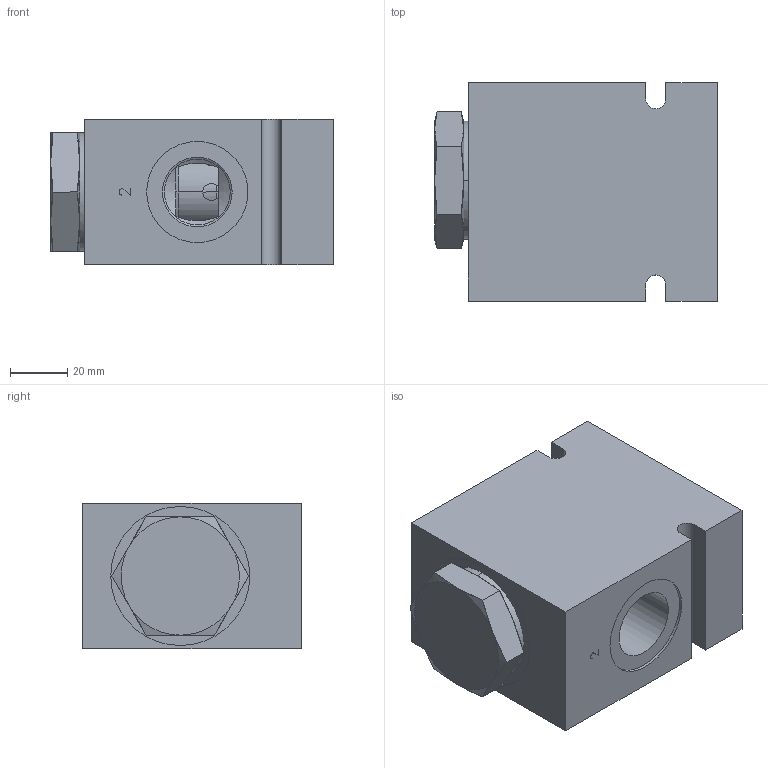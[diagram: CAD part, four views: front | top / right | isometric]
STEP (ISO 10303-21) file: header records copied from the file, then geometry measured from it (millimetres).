
FILE_DESCRIPTION( ( 'Unknown' ), '1' );
FILE_NAME( 'G:/Graphic Design/Graphic Design 2/Data Sheets/MANUAL_MECH OPERATED VALVES/SL-CPD/SLCPD_M.stp', 'Unknown', ( 'Unknown' ), ( 'Unknown' ), 'PSStep 16.0.42', 'Unknown', ' ' );
FILE_SCHEMA( ( 'AUTOMOTIVE_DESIGN { 1 0 10303 214 1 1 1 1 }' ) );
Length unit declared in the file: millimetre
Products named in the file (10): Assem1; SLCPD00-3D Full1; SLCPD00-3D Full2; SLCPD00-3D Full3; SLCPD00-3D Full4; SLCPD00-3D Full5; SLCPD00-3D Full6; SLCPD00-3D Full7; B-DSLD3
Assembly tree (9 placements, depth 2):
  Assem1
    SLCPD00-3D Full1
    SLCPD00-3D Full2
    SLCPD00-3D Full3
    SLCPD00-3D Full4
    SLCPD00-3D Full5
    SLCPD00-3D Full6
    SLCPD00-3D Full7
    SLCPD00-3D Full7
    B-DSLD3
Bounding box: 98.7 x 76.2 x 50.8 mm (x, y, z)
Surface area: 57612.9 mm2 (no closed solid volume)
Topology: 0 solids, 259 shells, 259 faces, 1223 edges, 1180 vertices
Faces by surface type: plane 115, cylinder 73, cone 58, torus 13
Full cylindrical faces by diameter (mm): 6.3 x1, 11.5 x2, 20.98 x1, 22.22 x1, 23 x2, 24.155 x2, 24.3 x4, 25.197 x1, 25.4 x1, 27.051 x1, 28.372 x2, 28.6 x2, 28.651 x1, 31.806 x2, 35.33 x2, 48.514 x1
Entity records: 17582 total; most frequent: CARTESIAN_POINT 7126, DIRECTION 1472, VERTEX_POINT 1163, ORIENTED_EDGE 1160, EDGE_CURVE 1160, AXIS2_PLACEMENT_3D 549, B_SPLINE_CURVE_WITH_KNOTS 506, LINE 374
